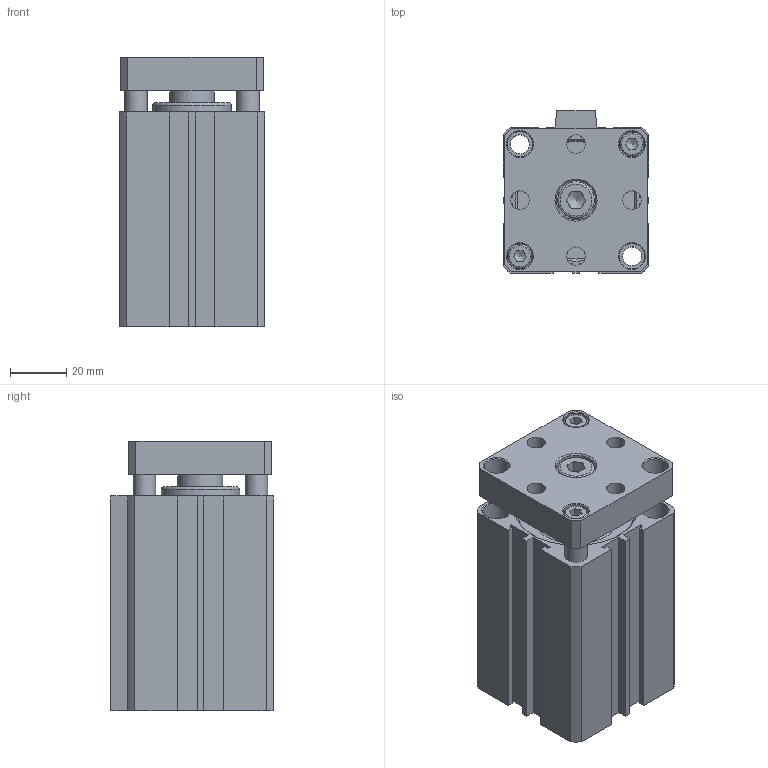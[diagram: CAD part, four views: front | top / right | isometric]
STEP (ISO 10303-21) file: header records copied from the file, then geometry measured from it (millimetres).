
FILE_DESCRIPTION((''),'2;1');
FILE_NAME('I:\3D電子目錄\氣缸\JTD\JTD\JTD40\JTD40x50.stp','2007-08-14T18:54:24',('Administrator'),(''),'Autodesk Inventor 11','Autodesk Inventor 11','');
FILE_SCHEMA(('AUTOMOTIVE_DESIGN { 1 0 10303 214 1 1 1 1 }'));
Length unit declared in the file: millimetre
Products named in the file (5): JTD40; R 形環 42; ISO 4762 M8 x 12; ISO 4762 M5 x 16
Assembly tree (5 placements, depth 2):
  JTD40
    JTD40
    R 形環 42
    ISO 4762 M8 x 12
    ISO 4762 M5 x 16  x2
Bounding box: 52 x 58 x 96.1 mm (x, y, z)
Volume: 207152.3 mm3; surface area: 50634.5 mm2
Topology: 5 solids, 5 shells, 195 faces, 448 edges, 290 vertices
Faces by surface type: plane 113, cylinder 43, cone 18, bspline 16, torus 5
Full cylindrical faces by diameter (mm): 1.9 x2, 2.2 x2, 5 x2, 6.8 x2, 8 x5, 8.5 x2, 9 x2, 9.5 x2, 10 x2, 13 x1, 16 x1, 28 x1, 29 x1, 42 x4, 44.5 x2
Entity records: 5157 total; most frequent: CARTESIAN_POINT 1103, DIRECTION 814, ORIENTED_EDGE 704, EDGE_CURVE 352, AXIS2_PLACEMENT_3D 299, EDGE_LOOP 294, VERTEX_POINT 266, VECTOR 216
